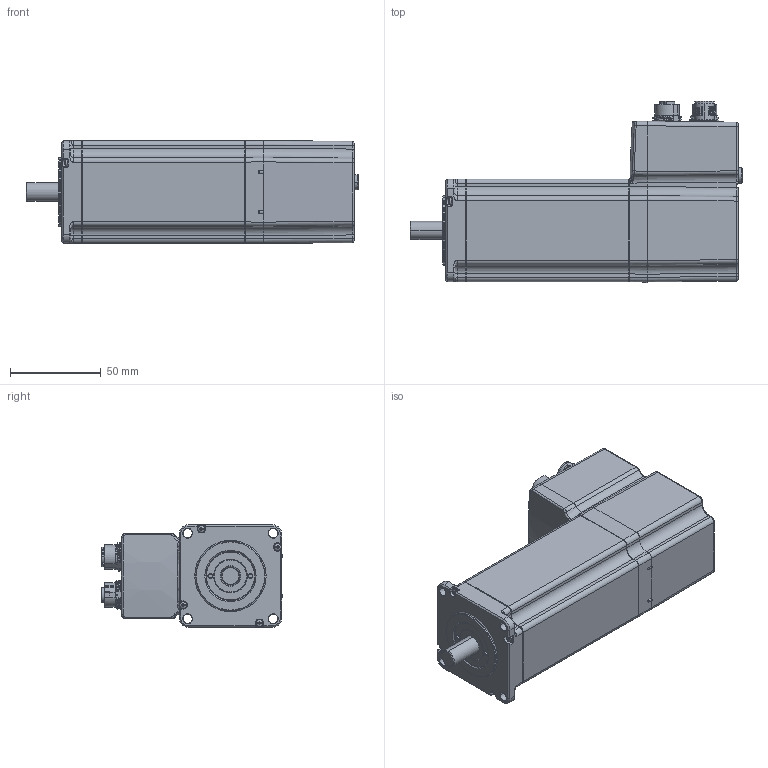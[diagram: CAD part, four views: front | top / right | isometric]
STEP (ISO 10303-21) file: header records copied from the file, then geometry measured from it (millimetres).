
FILE_DESCRIPTION((''),'2;1');
FILE_NAME('STEPPERASSY_ASM','2023-07-14T12:10:30',('VA'),(''),'CREO PARAMETRIC BY PTC INC, 2021063','CREO PARAMETRIC BY PTC INC, 2021063','');
FILE_SCHEMA(('AUTOMOTIVE_DESIGN { 1 0 10303 214 1 1 1 1 }'));
Products named in the file (8): FRONT_CAP_1; STATOR; RADIAL_CON; SHAFT_1; LOCK_NUT_1; SEALING_1; FAST_S; STEPPERASSY_ASM
Assembly tree (10 placements, depth 2):
  STEPPERASSY_ASM
    FRONT_CAP_1
    STATOR
    RADIAL_CON
    SHAFT_1
    LOCK_NUT_1
    SEALING_1
    FAST_S  x4
Bounding box: 182.9 x 99.82 x 56.67 mm (x, y, z)
Volume: 549865.3 mm3; surface area: 71069.3 mm2
Topology: 10 solids, 16 shells, 2180 faces, 5555 edges, 3470 vertices
Faces by surface type: plane 789, cylinder 609, bspline 359, cone 208, torus 181, sphere 32, extrusion 2
Entity records: 118508 total; most frequent: CARTESIAN_POINT 43591, ORIENTED_EDGE 10450, DIRECTION 9547, PRESENTATION_STYLE_ASSIGNMENT 5711, EDGE_CURVE 5227, STYLED_ITEM 4972, CURVE_STYLE 4768, AXIS2_PLACEMENT_3D 3564
